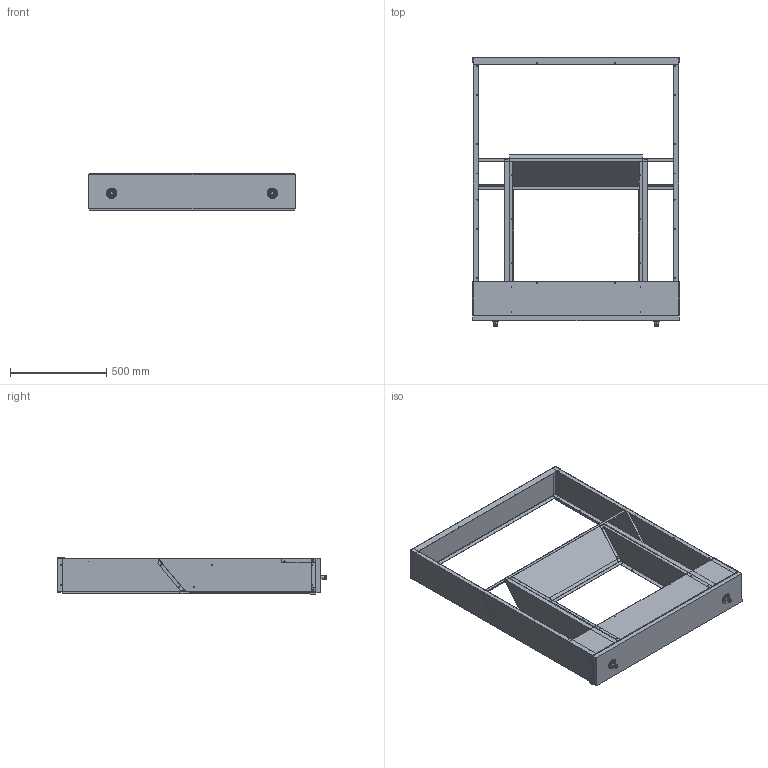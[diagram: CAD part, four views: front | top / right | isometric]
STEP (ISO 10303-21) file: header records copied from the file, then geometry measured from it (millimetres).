
FILE_DESCRIPTION (( 'STEP AP214' ), '1' );
FILE_NAME ('ICURB740.STEP', '2022-09-20T15:57:37', ( '' ), ( '' ), 'SwSTEP 2.0', 'SolidWorks 2022', '' );
FILE_SCHEMA (( 'AUTOMOTIVE_DESIGN' ));
Length unit declared in the file: inch
Products named in the file (17): 1913-031-4200; 106-357; 5021-2104_uncompressed; 5021-2106_uncompressed; 5021-2105_uncompressed; 120-518; 126-505; 5021-2107_uncompressed; 120-519_MirrorDefault; 120-520; ICURB740; 6094-011,body_THREADS; 6094-011,nut; 1913-031-5075; 6094-011,gasket; 100-892; 6094-011
Assembly tree (18 placements, depth 3):
  ICURB740
    126-505
    100-892  x2
    106-357
    120-518
    120-520
    120-519_MirrorDefault
    6094-011  x2
      6094-011,body_THREADS
      6094-011,gasket
      6094-011,nut
    1913-031-4200
    1913-031-5075
    5021-2105_uncompressed
    5021-2104_uncompressed
    5021-2107_uncompressed
    5021-2106_uncompressed
Bounding box: 1077.23 x 1402.38 x 188.12 mm (x, y, z)
Volume: 17859825.5 mm3; surface area: 5309950.8 mm2
Topology: 19 solids, 19 shells, 993 faces, 2381 edges, 1436 vertices
Faces by surface type: cylinder 505, plane 338, cone 72, torus 52, bspline 26
Entity records: 23593 total; most frequent: CARTESIAN_POINT 4707, DIRECTION 3905, ORIENTED_EDGE 3486, EDGE_CURVE 1743, AXIS2_PLACEMENT_3D 1493, VERTEX_POINT 1045, VECTOR 919, LINE 919
